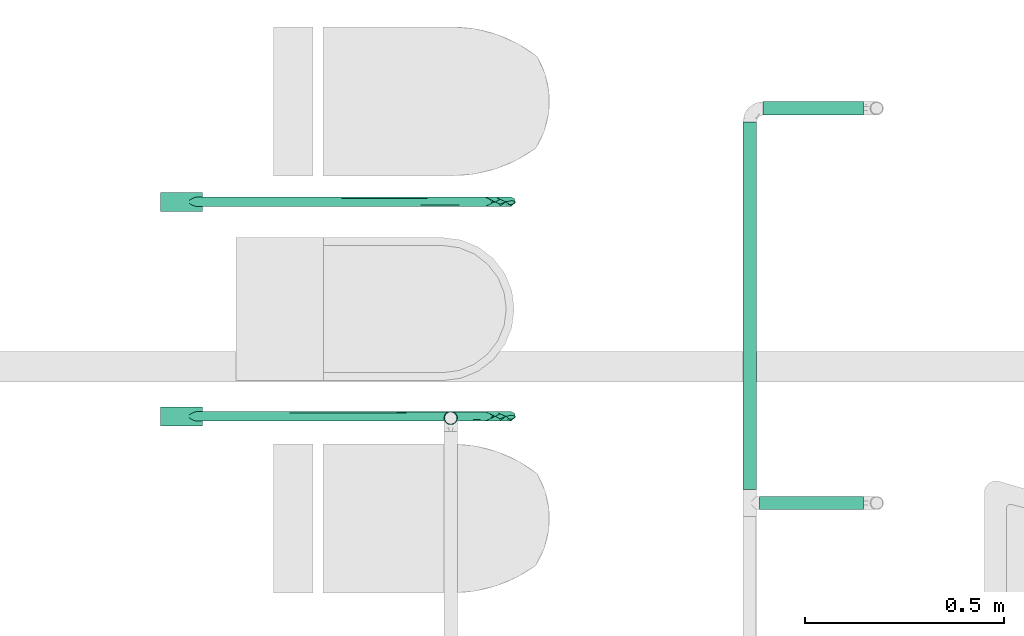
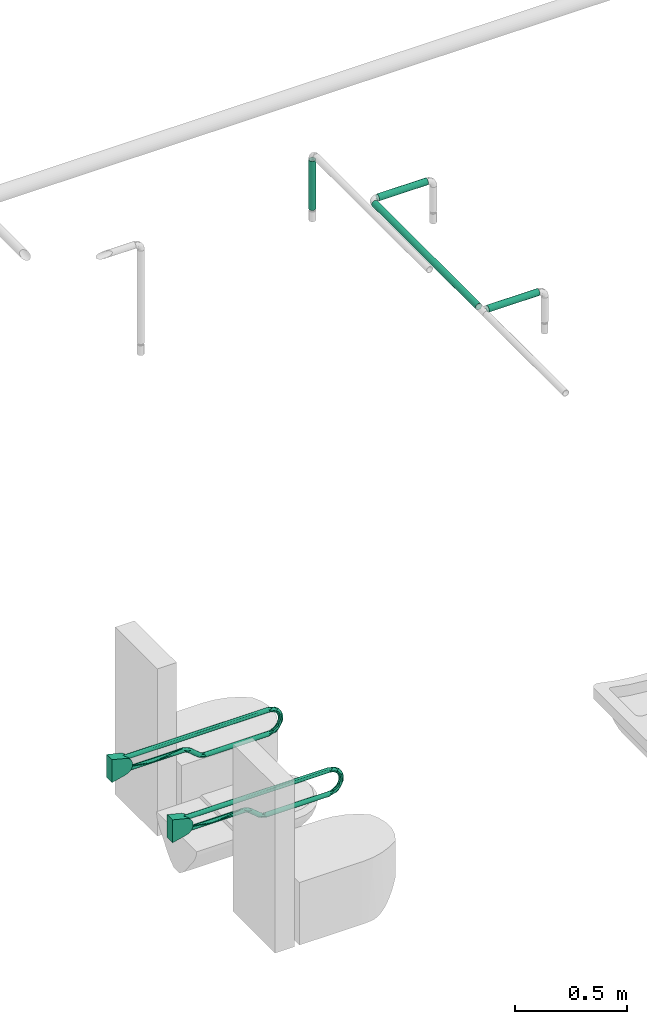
# One storey, part 9 of 95: 4 flow segments, 2 flow terminals.
"""IFC2X3 building model written with IfcOpenShell, lengths in millimetres."""

from ifc_helpers import new_model, entity, si_unit, converted_unit, derived_unit, direction, frame, origin_with_axes, origin_2d_with_axis, place, context, subcontext, project, spatial, hollow_circle, extrude, open_shell, surface_model, source, transform, mapped, type_object, element, save


model = new_model("IFC2X3")

# Units and contexts
model_context = context("Model", 3, precision=0.01, world=frame((0.0, 4.29681676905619e-09, 0.0)), true_north=direction((4.01073788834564e-13, 1.0)))
plan_context = context("Plan", 3, precision=0.01, world=frame((0.0, 4.29681676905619e-09, 0.0)), true_north=direction((4.01073788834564e-13, 1.0)))
body_context = subcontext(model_context, "Body", "Model", "MODEL_VIEW")
ifc_project = project(units=[converted_unit("PLANEANGLEUNIT", "DEGREE", entity("IfcPositiveLengthMeasure", 0.0174532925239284), si_unit("PLANEANGLEUNIT", "RADIAN"), dimensions=[0, 0, 0, 0, 0, 0, 0]), si_unit("AREAUNIT", "SQUARE_METRE"), si_unit("LENGTHUNIT", "METRE", prefix="MILLI"), si_unit("MASSUNIT", "GRAM", prefix="KILO"), si_unit("POWERUNIT", "WATT"), si_unit("PRESSUREUNIT", "PASCAL"), si_unit("FORCEUNIT", "NEWTON", prefix="KILO"), si_unit("ELECTRICVOLTAGEUNIT", "VOLT"), si_unit("ELECTRICCURRENTUNIT", "AMPERE"), si_unit("THERMODYNAMICTEMPERATUREUNIT", "DEGREE_CELSIUS"), si_unit("TIMEUNIT", "SECOND"), si_unit("VOLUMEUNIT", "CUBIC_METRE"), derived_unit("LINEARVELOCITYUNIT", [(si_unit("LENGTHUNIT", "METRE"), 1), (si_unit("TIMEUNIT", "SECOND"), -1)]), derived_unit("VOLUMETRICFLOWRATEUNIT", [(si_unit("VOLUMEUNIT", "CUBIC_METRE"), 1), (si_unit("TIMEUNIT", "SECOND"), -1)]), derived_unit("THERMALTRANSMITTANCEUNIT", [(si_unit("POWERUNIT", "WATT"), 1), (si_unit("THERMODYNAMICTEMPERATUREUNIT", "KELVIN"), -1), (si_unit("AREAUNIT", "SQUARE_METRE"), -1)]), derived_unit("SOUNDPRESSUREUNIT", [(si_unit("PRESSUREUNIT", "PASCAL"), 1)])], contexts=[model_context, plan_context])

# Site, building, storey
site_placement = place(None, frame((0.0, -4.29681676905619e-09, 0.0), z_axis=(0.0, 0.0, 1.0), x_axis=(1.0, 0.0, 0.0)))
site = spatial("IfcSite", under=ifc_project, at=site_placement, CompositionType="ELEMENT")
building_placement = place(site_placement, frame((0.0, 4.29681676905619e-09, 0.0), z_axis=(0.0, 0.0, 1.0), x_axis=(1.0, 0.0, 0.0)))
building = spatial("IfcBuilding", under=site, at=building_placement, Name="mc-building", CompositionType="ELEMENT")
storey_placement = place(building_placement, frame((0.0, 0.0, 210900.0), z_axis=(0.0, 0.0, 1.0), x_axis=(1.0, 0.0, 0.0)))
storey = spatial("IfcBuildingStorey", under=building, at=storey_placement, Name="Nivå F", CompositionType="ELEMENT", Elevation=210900.0)

# Flow segments
pipe_segment_type = type_object("IfcPipeSegmentType", Name="Stålrør normaltykke", PredefinedType="RIGIDSEGMENT")
shared_shape_1 = source(origin_with_axes(), body_context, "Body", "SweptSolid", [
    extrude(hollow_circle(Radius=16.9, WallThickness=2.0, at=origin_2d_with_axis()), frame((0.0, 0.0, 0.0), z_axis=(1.0, 0.0, 0.0), x_axis=(0.0, 1.0, 0.0)), (0.0, 0.0, 1.0), 252.4),
])
flow_segment_1_placement = place(storey_placement, frame((532724.63666, 442511.46652, 3080.14999999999), z_axis=(0.0, 0.0, 1.0), x_axis=(-1.0, 0.0, 0.0)))
element("IfcFlowSegment", 1, at=flow_segment_1_placement, inside=storey, type_object=pipe_segment_type, Name="Stålrør normaltykke", context=body_context, shape_type="MappedRepresentation", body=[
    mapped(shared_shape_1, transform((0.0, 0.0, 0.0), scale=1.0)),
])
shared_shape_2 = source(origin_with_axes(), body_context, "Body", "SweptSolid", [
    extrude(hollow_circle(Radius=16.9, WallThickness=2.0, at=origin_2d_with_axis()), frame((0.0, 0.0, 0.0), z_axis=(1.0, 0.0, 0.0), x_axis=(0.0, 1.0, 0.0)), (0.0, 0.0, 1.0), 261.1),
])
flow_segment_2_placement = place(storey_placement, frame((532463.78666, 441518.15849, 3080.14999999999), z_axis=(0.0, 0.0, 1.0), x_axis=(1.0, 0.0, 0.0)))
element("IfcFlowSegment", 2, at=flow_segment_2_placement, inside=storey, type_object=pipe_segment_type, Name="Stålrør normaltykke", context=body_context, shape_type="MappedRepresentation", body=[
    mapped(shared_shape_2, transform((0.0, 0.0, 0.0), scale=1.0)),
])
shared_shape_3 = source(origin_with_axes(), body_context, "Body", "SweptSolid", [
    extrude(hollow_circle(Radius=16.9, WallThickness=2.0, at=origin_2d_with_axis()), frame((0.0, 0.0, 0.0), z_axis=(1.0, 0.0, 0.0), x_axis=(0.0, 1.0, 0.0)), (0.0, 0.0, 1.0), 925.7),
])
flow_segment_3_placement = place(storey_placement, frame((532438.43666, 442477.66652, 3080.14999999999), z_axis=(0.0, 0.0, 1.0), x_axis=(0.0, -1.0, 0.0)))
element("IfcFlowSegment", 3, at=flow_segment_3_placement, inside=storey, type_object=pipe_segment_type, Name="Stålrør normaltykke", context=body_context, shape_type="MappedRepresentation", body=[
    mapped(shared_shape_3, transform((0.0, 0.0, 0.0), scale=1.0)),
])
shared_shape_4 = source(origin_with_axes(), body_context, "Body", "SweptSolid", [
    extrude(hollow_circle(Radius=16.9, WallThickness=2.0, at=origin_2d_with_axis()), frame((0.0, 0.0, 0.0), z_axis=(1.0, 0.0, 0.0), x_axis=(0.0, 1.0, 0.0)), (0.0, 0.0, 1.0), 266.8),
])
flow_segment_4_placement = place(storey_placement, frame((531686.19805, 441731.98794, 4036.20000000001), z_axis=(0.0, -1.0, 0.0), x_axis=(0.0, 0.0, -1.0)))
element("IfcFlowSegment", 4, at=flow_segment_4_placement, inside=storey, type_object=pipe_segment_type, Name="Stålrør normaltykke", context=body_context, shape_type="MappedRepresentation", body=[
    mapped(shared_shape_4, transform((0.0, 0.0, 0.0), scale=1.0)),
])

# Flow terminals
sanitary_terminal_type = type_object("IfcSanitaryTerminalType", Name="Armstøtte HWC 2", PredefinedType="NOTDEFINED")
shared_shape_5 = source(origin_with_axes(), body_context, "Body", "SurfaceModel", [
    surface_model("IfcShellBasedSurfaceModel", [(-831.79567, -170.0, 709.41462), (-879.79564, -170.0, 709.41462), (-879.79564, -170.0, 584.51836), (-831.79567, -170.0, 584.51836), (-867.28725, -74.35086, 676.5441), (-867.38681, 646.99728, 676.89415), (-866.18797, 646.99728, 673.99999), (-862.43689, -69.7611, 670.00532), (-864.28097, 646.99728, 671.51475), (-861.79565, 646.99728, 669.60767), (-865.55996, -71.67023, 673.0244), (-858.9015, 646.99728, 668.40891), (-858.1591, -68.78703, 668.23501), (-867.79565, -77.57324, 679.99999), (-867.79565, 646.99728, 679.99999), (-855.79566, 646.99728, 668.0), (-853.42516, -68.78778, 668.23646), (-852.68981, 646.99728, 668.40891), (-849.79566, 646.99728, 669.60767), (-847.31042, 646.99728, 671.51475), (-849.14584, -69.76439, 670.01099), (-844.30362, -74.35202, 676.54548), (-845.40334, 646.99728, 673.99999), (-844.20458, 646.99728, 676.89415), (-846.02975, -71.67185, 673.02672), (-843.79566, 646.99728, 679.99999), (-843.79566, -77.57324, 679.99999), (-844.20458, 646.99728, 683.10583), (-844.14135, -80.82162, 682.85963), (-845.40334, 646.99728, 685.99999), (-847.31042, 646.99728, 688.4853), (-849.79566, 646.99728, 690.39231), (-848.09714, -91.40481, 689.20502), (-845.05707, -84.25548, 685.35562), (-850.11868, -94.99724, 690.57217), (-852.68981, 646.99728, 691.59114), (-846.40364, -87.80224, 687.4693), (-852.60014, -98.41599, 691.56673), (-853.38628, -99.1737, 691.7556), (-854.18333, -99.71739, 691.8912), (-855.79566, 646.99728, 691.99998), (-854.98764, -100.04459, 691.97273), (-855.79566, -100.15382, 691.99998), (-861.79565, 646.99728, 690.39231), (-861.47271, -94.99724, 690.57217), (-858.9015, 646.99728, 691.59114), (-858.2051, -99.1737, 691.7556), (-863.49424, -91.40481, 689.20502), (-864.28097, 646.99728, 688.4853), (-867.38681, 646.99728, 683.10583), (-866.18797, 646.99728, 685.99999), (-866.53424, -84.25548, 685.35562), (-867.44996, -80.82162, 682.85963), (-857.40806, -99.71739, 691.8912), (-856.60367, -100.04459, 691.97273), (-858.99117, -98.41599, 691.56673), (-865.18767, -87.80224, 687.4693), (-857.36198, 671.85928, 568.07692), (-849.21241, 672.17496, 566.13837), (-848.63243, 682.12522, 572.19647), (-843.79566, 662.06736, 677.00235), (-848.49051, 664.02749, 667.80132), (-855.72967, 661.23551, 666.05186), (-857.36198, 671.85928, 661.92304), (-867.79565, 662.06736, 677.00235), (-846.60566, 694.62679, 583.17501), (-843.79566, 707.0495, 590.12557), (-849.00951, 700.44664, 601.60143), (-845.61822, 692.32845, 652.20234), (-843.79566, 692.95923, 660.96191), (-847.81562, 680.08102, 660.22961), (-867.79565, 671.87171, 675.05218), (-863.10081, 661.95182, 668.42628), (-860.54457, 686.06452, 652.24987), (-849.7836, 686.21015, 653.01465), (-865.16739, 675.40921, 565.00378), (-863.10081, 661.95182, 561.57372), (-843.79566, 700.00437, 650.41815), (-845.76763, 698.90567, 641.77979), (-855.79566, 698.97892, 625.33981), (-850.9966, 697.36361, 634.47784), (-859.9329, 694.97706, 639.19659), (-844.20458, 646.99728, 553.10585), (-843.79566, 646.99728, 550.0), (-843.79566, 662.06736, 552.99764), (-859.01661, 695.21134, 591.95053), (-860.5926, 688.3481, 580.2701), (-853.85798, 690.7747, 584.84613), (-864.84023, 702.55668, 628.23295), (-866.18797, 646.99728, 556.0), (-867.79565, 662.06736, 552.99764), (-843.79566, 671.87171, 675.05218), (-846.44826, 703.33934, 626.35566), (-847.31042, 646.99728, 558.48528), (-845.40334, 646.99728, 556.0), (-845.71255, 665.13673, 559.38987), (-865.16739, 675.40921, 664.99626), (-859.6657, 700.63391, 615.69839), (-852.2232, 700.52555, 613.69546), (-843.79566, 692.95923, 569.03805), (-843.79566, 700.00437, 579.58181), (-867.79565, 709.52341, 602.56278), (-865.97309, 703.11457, 597.97702), (-865.51323, 704.86969, 611.82501), (-843.79566, 709.52341, 602.56278), (-846.06987, 704.86046, 611.46726), (-864.28097, 646.99728, 558.48528), (-861.79565, 646.99728, 560.39232), (-867.79565, 700.00437, 579.58181), (-865.61926, 687.91797, 573.74394), (-865.79563, 696.964, 584.83382), (-861.05907, 700.17143, 604.42299), (-855.07637, 698.32889, 601.72014), (-867.79565, 646.99728, 550.0), (-867.38681, 646.99728, 553.10585), (-861.09155, 680.44749, 572.31307), (-854.87849, 683.37667, 576.40904), (-858.9015, 646.99728, 561.59112), (-851.20349, 661.52961, 563.08205), (-855.79566, 646.99728, 562.0), (-867.79565, 671.87171, 554.94781), (-843.79566, 671.87171, 554.94781), (-852.18483, 696.0283, 593.45418), (-843.79566, 682.41547, 561.99295), (-867.79565, 692.95923, 569.03805), (-852.68981, 646.99728, 561.59112), (-849.79566, 646.99728, 560.39232), (-850.53224, 692.07614, 645.12072), (-865.72935, 685.55656, 658.68436), (-867.79565, 682.41547, 668.00705), (-867.79565, 700.00437, 650.41815), (-865.86008, 698.55874, 642.56012), (-865.01682, 691.9768, 650.53188), (-867.79565, 682.41547, 561.99295), (-867.79565, 707.0495, 639.87439), (-867.79565, 709.52341, 627.43721), (-867.79565, 711.99731, 615.00003), (-867.79565, 707.0495, 590.12557), (-843.79566, 711.99731, 615.00003), (-843.79566, 709.52341, 627.43721), (-843.79566, 707.0495, 639.87439), (-843.79566, 682.41547, 668.00705), (-867.79565, 692.95923, 660.96191), (-855.79566, 672.23041, 687.74814), (-863.965, 697.10752, 560.83437), (-858.83079, 688.63624, 550.694), (-855.79566, 714.67244, 578.27026), (-849.73251, 684.3256, 680.46035), (-849.48994, 706.87938, 660.50416), (-858.8127, 714.25909, 651.68297), (-855.79566, 699.03386, 671.75558), (-848.36326, 714.58865, 646.14355), (-855.79566, 722.94199, 627.70435), (-861.82465, 684.42123, 680.42874), (-862.10138, 718.58128, 591.92993), (-855.79566, 676.14863, 543.73149), (-852.77862, 722.55321, 602.30793), (-852.77862, 698.58134, 558.35306), (-848.74972, 684.20526, 550.21038), (-863.22812, 721.11289, 608.26247), (-844.20458, 646.99728, 546.89416), (-855.42882, 661.84478, 539.45076), (-845.40334, 646.99728, 544.0), (-847.31042, 646.99728, 541.51473), (-849.79566, 646.99728, 539.60769), (-852.68981, 646.99728, 538.40889), (-855.79566, 646.99728, 538.0), (-867.38681, 646.99728, 546.89416), (-858.9015, 646.99728, 538.40889), (-861.79565, 646.99728, 539.60769), (-864.28097, 646.99728, 541.51473), (-866.18797, 646.99728, 544.0), (-867.38681, 321.7587, 553.10585), (-866.18797, 321.7587, 556.0), (-867.79565, 321.7587, 550.0), (-861.79565, 321.7587, 560.39232), (-858.9015, 321.7587, 561.59112), (-864.28097, 321.7587, 558.48528), (-855.79566, 321.7587, 562.0), (-849.79566, 321.7587, 560.39232), (-852.68981, 321.7587, 561.59112), (-847.31042, 321.7587, 558.48528), (-845.40334, 321.7587, 556.0), (-844.20458, 321.7587, 553.10585), (-843.79566, 321.7587, 550.0), (-844.20458, 321.7587, 546.89416), (-845.40334, 321.7587, 544.0), (-847.31042, 321.7587, 541.51473), (-849.79566, 321.7587, 539.60769), (-852.68981, 321.7587, 538.40889), (-855.79566, 321.7587, 538.0), (-858.9015, 321.7587, 538.40889), (-861.79565, 321.7587, 539.60769), (-864.28097, 321.7587, 541.51473), (-866.18797, 321.7587, 544.0), (-867.38681, 321.7587, 546.89416), (-864.81778, 311.08748, 559.28745), (-857.36198, 308.72683, 564.19521), (-846.27545, 312.96549, 558.22047), (-858.9015, 297.06995, 570.57709), (-855.79566, 297.33278, 570.8903), (-847.88349, 305.45981, 562.40299), (-843.79566, 304.65771, 553.01537), (-867.79565, 304.65771, 553.01537), (-852.68981, 297.06995, 570.57709), (-865.31593, 302.0865, 562.10733), (-864.28097, 295.07356, 568.19788), (-861.79565, 296.29937, 569.65876), (-867.38681, 291.61572, 564.07698), (-866.18797, 293.47605, 566.29403), (-867.79565, 289.61933, 561.69776), (-844.20458, 291.61572, 564.07698), (-843.79566, 289.61933, 561.69776), (-845.40334, 293.47605, 566.29403), (-847.31042, 295.07356, 568.19788), (-849.79566, 296.29937, 569.65876), (-858.9015, 282.16871, 552.81847), (-855.79566, 300.55346, 541.73906), (-855.79566, 281.90589, 552.50523), (-844.20458, 287.62294, 559.31859), (-845.40334, 285.76261, 557.1015), (-847.31042, 284.1651, 555.19769), (-849.79566, 282.93929, 553.7368), (-852.68981, 282.16871, 552.81847), (-866.18797, 285.76261, 557.1015), (-867.38681, 287.62294, 559.31859), (-861.79565, 282.93929, 553.7368), (-864.28097, 284.1651, 555.19769), (-867.38681, 243.06725, 604.81399), (-867.79565, 241.07088, 602.43478), (-866.18797, 244.9276, 607.03104), (-864.28097, 246.5251, 608.93489), (-861.79565, 247.75092, 610.39574), (-858.9015, 248.52149, 611.31407), (-855.79566, 248.78432, 611.62727), (-849.79566, 247.75092, 610.39574), (-852.68981, 248.52149, 611.31407), (-847.31042, 246.5251, 608.93489), (-845.40334, 244.9276, 607.03104), (-844.20458, 243.06725, 604.81399), (-843.79566, 241.07088, 602.43478), (-844.20458, 239.07449, 600.05556), (-845.40334, 237.21414, 597.83851), (-847.31042, 235.61663, 595.93466), (-849.79566, 234.39082, 594.47382), (-852.68981, 233.62024, 593.55549), (-855.79566, 233.35741, 593.24224), (-858.9015, 233.62024, 593.55549), (-861.79565, 234.39082, 594.47382), (-864.28097, 235.61663, 595.93466), (-867.38681, 239.07449, 600.05556), (-866.18797, 237.21414, 597.83851), (-855.79566, 230.13673, 622.39348), (-867.79565, 226.0325, 611.1172), (-843.79566, 226.0325, 611.1172), (-866.18797, 208.93149, 620.13257), (-867.79565, 208.93149, 614.13257), (-867.38681, 208.93149, 617.23841), (-864.28097, 208.93149, 622.61781), (-861.79565, 208.93149, 624.52489), (-858.9015, 208.93149, 625.72365), (-855.79566, 208.93149, 626.13257), (-845.40334, 208.93149, 620.13257), (-844.20458, 208.93149, 617.23841), (-843.79566, 208.93149, 614.13257), (-849.79566, 208.93149, 624.52489), (-847.31042, 208.93149, 622.61781), (-852.68981, 208.93149, 625.72365), (-846.7736, 226.92636, 602.17952), (-854.22933, 221.96336, 599.93733), (-865.31593, 229.05086, 601.78972), (-846.27545, 218.21866, 605.8051), (-847.31042, 208.93149, 605.64726), (-849.79566, 208.93149, 603.74026), (-863.70782, 220.6127, 603.41026), (-852.68981, 208.93149, 602.54146), (-858.9015, 208.93149, 602.54146), (-855.79566, 208.93149, 602.13254), (-844.20458, 208.93149, 611.02673), (-845.40334, 208.93149, 608.13254), (-866.18797, 208.93149, 608.13254), (-867.38681, 208.93149, 611.02673), (-861.79565, 208.93149, 603.74026), (-864.28097, 208.93149, 605.64726), (-867.79565, -77.36825, 614.13257), (-867.28413, -74.17547, 617.59879), (-867.79565, 43.58794, 614.13257), (-844.30675, -74.17658, 617.5974), (-843.79566, -77.36825, 614.13257), (-843.79566, 43.58794, 614.13257), (-858.15329, -68.68288, 625.89871), (-862.42461, -69.6415, 624.13538), (-865.55029, -71.52452, 621.12161), (-853.43105, -68.68361, 625.89726), (-849.15827, -69.6447, 624.12978), (-846.03927, -71.52615, 621.11921), (-846.57696, -87.82704, 606.45037), (-848.39335, -91.49892, 604.68769), (-844.16439, -80.68809, 611.18057), (-845.14027, -84.2011, 608.61321), (-853.4389, -98.41599, 602.36628), (-854.21879, -98.936, 602.2366), (-850.59634, -95.12792, 603.31743), (-855.00551, -99.24891, 602.15859), (-855.79566, -99.35337, 602.13254), (-856.58587, -99.24891, 602.15859), (-857.37259, -98.936, 602.2366), (-858.15249, -98.41599, 602.36628), (-860.99497, -95.12792, 603.31743), (-863.19797, -91.49892, 604.68769), (-865.01435, -87.82704, 606.45037), (-866.45104, -84.2011, 608.61321), (-867.42692, -80.68809, 611.18057), (-831.79567, -66.54557, 630.69835), (-831.79567, -63.90427, 641.43708), (-831.79567, -63.90427, 652.49586), (-831.79567, -66.54557, 663.23466), (-831.79567, -71.67529, 620.90127), (-831.79567, -78.9965, 612.6129), (-831.79567, -88.08543, 606.31299), (-831.79567, -98.41599, 691.56673), (-831.79567, -78.9965, 681.32011), (-831.79567, -88.08543, 687.61995), (-831.79567, -98.41599, 602.36628), (-831.79567, -71.67529, 673.03174), (-879.79564, -98.41599, 602.36628), (-879.79564, -98.41599, 691.56673), (-879.79564, -88.08543, 606.31299), (-879.79564, -88.08543, 687.61995), (-879.79564, -66.54557, 663.23466), (-879.79564, -78.9965, 681.32011), (-879.79564, -71.67529, 673.03174), (-879.79564, -63.90427, 652.49586), (-879.79564, -63.90427, 641.43708), (-879.79564, -66.54557, 630.69835), (-879.79564, -78.9965, 612.6129), (-879.79564, -71.67529, 620.90127), (-879.79564, -83.54097, 609.46294), (-879.79564, -75.33589, 616.75705), (-831.79567, -75.33589, 677.17589), (-831.79567, -83.54097, 609.46294), (-879.79564, -83.54097, 684.47007), (-831.79567, -75.33589, 616.75705), (-879.79564, -75.33589, 677.17589), (-831.79567, -83.54097, 684.47007)], [open_shell([[[0, 1, 2]], [[2, 3, 0]], [[4, 5, 6]], [[7, 8, 9]], [[6, 8, 10]], [[9, 11, 12]], [[13, 14, 4]], [[14, 5, 4]], [[4, 6, 10]], [[10, 8, 7]], [[9, 12, 7]], [[11, 15, 12]], [[16, 17, 18]], [[19, 20, 18]], [[21, 22, 23]], [[19, 22, 24]], [[21, 23, 25]], [[17, 16, 15]], [[18, 20, 16]], [[15, 16, 12]], [[20, 19, 24]], [[24, 22, 21]], [[25, 26, 21]], [[25, 27, 26]], [[28, 26, 27]], [[27, 29, 28]], [[30, 31, 32]], [[33, 29, 30]], [[28, 29, 33]], [[34, 31, 35]], [[33, 30, 36]], [[34, 32, 31]], [[36, 30, 32]], [[37, 35, 38]], [[39, 40, 41]], [[40, 39, 38]], [[34, 35, 37]], [[41, 40, 42]], [[35, 40, 38]], [[43, 44, 45]], [[45, 46, 40]], [[47, 43, 48]], [[49, 14, 13]], [[48, 50, 51]], [[49, 52, 50]], [[13, 52, 49]], [[53, 40, 46]], [[54, 40, 53]], [[45, 55, 46]], [[56, 48, 51]], [[44, 55, 45]], [[43, 47, 44]], [[47, 48, 56]], [[50, 52, 51]], [[40, 54, 42]], [[57, 58, 59]], [[60, 22, 61]], [[61, 62, 63]], [[5, 64, 6]], [[65, 66, 67]], [[68, 69, 70]], [[71, 72, 64]], [[63, 73, 74]], [[25, 23, 60]], [[75, 76, 57]], [[9, 72, 11]], [[62, 11, 72]], [[19, 18, 61]], [[77, 68, 78]], [[79, 80, 81]], [[8, 72, 9]], [[82, 83, 84]], [[85, 86, 87]], [[79, 81, 88]], [[17, 15, 62]], [[68, 77, 69]], [[19, 61, 22]], [[89, 76, 90]], [[64, 72, 6]], [[17, 62, 18]], [[6, 72, 8]], [[70, 91, 61]], [[78, 80, 92]], [[72, 63, 62]], [[60, 23, 22]], [[93, 94, 95]], [[63, 96, 73]], [[5, 14, 64]], [[79, 97, 98]], [[98, 92, 79]], [[65, 99, 100]], [[101, 102, 103]], [[67, 104, 105]], [[76, 106, 107]], [[108, 109, 110]], [[111, 112, 97]], [[90, 113, 114]], [[115, 116, 86]], [[76, 117, 118]], [[118, 117, 119]], [[118, 58, 57]], [[65, 59, 99]], [[90, 114, 89]], [[91, 60, 61]], [[76, 107, 117]], [[106, 76, 89]], [[95, 118, 93]], [[95, 58, 118]], [[76, 120, 90]], [[58, 95, 121]], [[122, 85, 87]], [[96, 63, 72]], [[95, 94, 84]], [[85, 111, 102]], [[121, 123, 58]], [[121, 95, 84]], [[124, 109, 108]], [[59, 58, 123]], [[75, 115, 109]], [[70, 61, 63]], [[118, 125, 126]], [[59, 123, 99]], [[94, 82, 84]], [[118, 57, 76]], [[120, 76, 75]], [[73, 81, 127]], [[118, 126, 93]], [[119, 125, 118]], [[96, 72, 71]], [[127, 68, 74]], [[98, 97, 112]], [[96, 128, 73]], [[96, 71, 129]], [[130, 131, 132]], [[115, 75, 57]], [[109, 133, 75]], [[130, 134, 131]], [[131, 88, 81]], [[103, 135, 136]], [[97, 103, 111]], [[73, 128, 132]], [[88, 131, 134]], [[132, 81, 73]], [[116, 57, 59]], [[109, 115, 86]], [[109, 86, 110]], [[88, 134, 135]], [[85, 110, 86]], [[110, 102, 137]], [[86, 116, 87]], [[85, 122, 112]], [[57, 116, 115]], [[87, 59, 65]], [[59, 87, 116]], [[122, 65, 67]], [[65, 122, 87]], [[112, 122, 67]], [[112, 67, 98]], [[85, 112, 111]], [[67, 105, 98]], [[92, 138, 139]], [[92, 98, 105]], [[77, 78, 140]], [[79, 88, 97]], [[92, 105, 138]], [[104, 67, 66]], [[104, 138, 105]], [[135, 103, 88]], [[88, 103, 97]], [[102, 110, 85]], [[102, 101, 137]], [[103, 136, 101]], [[103, 102, 111]], [[62, 61, 18]], [[11, 62, 15]], [[127, 78, 68]], [[141, 91, 70]], [[74, 68, 70]], [[80, 78, 127]], [[92, 140, 78]], [[81, 80, 127]], [[92, 80, 79]], [[63, 74, 70]], [[73, 127, 74]], [[70, 69, 141]], [[129, 128, 96]], [[100, 66, 65]], [[128, 129, 142]], [[142, 130, 132]], [[132, 128, 142]], [[81, 132, 131]], [[133, 109, 124]], [[133, 120, 75]], [[110, 137, 108]], [[139, 140, 92]], [[31, 30, 143]], [[120, 144, 145]], [[40, 35, 143]], [[143, 35, 31]], [[30, 29, 143]], [[146, 144, 124]], [[147, 25, 91]], [[148, 149, 150]], [[151, 152, 149]], [[147, 150, 153]], [[153, 150, 71]], [[29, 27, 143]], [[108, 137, 154]], [[155, 120, 145]], [[144, 120, 124]], [[151, 149, 148]], [[154, 156, 146]], [[143, 45, 40]], [[143, 43, 45]], [[50, 48, 143]], [[14, 153, 71]], [[157, 158, 145]], [[43, 143, 48]], [[121, 158, 157]], [[146, 108, 154]], [[148, 141, 69]], [[14, 49, 143]], [[143, 49, 50]], [[99, 121, 157]], [[142, 150, 149]], [[142, 71, 150]], [[134, 149, 152]], [[152, 136, 134]], [[147, 153, 143]], [[156, 138, 66]], [[66, 146, 156]], [[99, 157, 146]], [[138, 152, 140]], [[143, 153, 14]], [[155, 158, 83]], [[99, 146, 66]], [[159, 152, 156]], [[83, 160, 155]], [[160, 161, 155]], [[161, 162, 163]], [[146, 157, 144]], [[161, 164, 165]], [[137, 159, 154]], [[159, 137, 136]], [[163, 164, 161]], [[152, 159, 136]], [[160, 162, 161]], [[83, 158, 121]], [[161, 165, 166]], [[144, 157, 145]], [[159, 156, 154]], [[155, 167, 113]], [[155, 113, 120]], [[134, 142, 149]], [[168, 161, 166]], [[150, 141, 148]], [[143, 27, 25]], [[141, 147, 91]], [[161, 169, 170]], [[161, 171, 167]], [[171, 161, 170]], [[69, 151, 148]], [[151, 69, 140]], [[152, 151, 140]], [[161, 167, 155]], [[168, 169, 161]], [[147, 141, 150]], [[146, 124, 108]], [[156, 152, 138]], [[145, 158, 155]], [[25, 147, 143]], [[172, 173, 89]], [[174, 172, 114]], [[175, 176, 117]], [[177, 175, 107]], [[173, 177, 106]], [[174, 114, 113]], [[172, 89, 114]], [[173, 106, 89]], [[177, 107, 106]], [[117, 107, 175]], [[176, 119, 117]], [[176, 178, 119]], [[179, 126, 180]], [[181, 93, 179]], [[82, 182, 183]], [[182, 94, 181]], [[183, 184, 83]], [[180, 125, 178]], [[180, 126, 125]], [[178, 125, 119]], [[179, 93, 126]], [[181, 94, 93]], [[82, 94, 182]], [[183, 83, 82]], [[185, 160, 184]], [[186, 162, 185]], [[164, 187, 188]], [[186, 187, 163]], [[165, 188, 189]], [[184, 160, 83]], [[185, 162, 160]], [[186, 163, 162]], [[187, 164, 163]], [[165, 164, 188]], [[189, 166, 165]], [[189, 190, 166]], [[169, 191, 192]], [[193, 170, 192]], [[167, 194, 195]], [[193, 194, 171]], [[113, 195, 174]], [[191, 168, 190]], [[191, 169, 168]], [[190, 168, 166]], [[192, 170, 169]], [[193, 171, 170]], [[167, 171, 194]], [[195, 113, 167]], [[196, 197, 176]], [[172, 196, 173]], [[198, 182, 181]], [[199, 200, 197]], [[201, 202, 198]], [[197, 178, 176]], [[173, 196, 177]], [[197, 180, 178]], [[196, 175, 177]], [[198, 202, 184]], [[196, 172, 203]], [[201, 197, 204]], [[198, 197, 201]], [[180, 198, 179]], [[203, 205, 196]], [[205, 206, 207]], [[182, 198, 183]], [[184, 183, 198]], [[198, 181, 179]], [[180, 197, 198]], [[172, 174, 203]], [[208, 205, 203]], [[197, 205, 199]], [[207, 199, 205]], [[204, 197, 200]], [[205, 208, 209]], [[205, 209, 206]], [[208, 203, 210]], [[196, 176, 175]], [[211, 212, 202]], [[211, 202, 201]], [[213, 201, 214]], [[211, 201, 213]], [[214, 201, 215]], [[204, 215, 201]], [[196, 205, 197]], [[216, 217, 218]], [[188, 217, 189]], [[217, 186, 202]], [[217, 187, 186]], [[217, 188, 187]], [[185, 202, 186]], [[217, 193, 192]], [[192, 191, 217]], [[195, 194, 203]], [[194, 217, 203]], [[203, 174, 195]], [[193, 217, 194]], [[190, 217, 191]], [[185, 184, 202]], [[202, 212, 219]], [[217, 190, 189]], [[202, 219, 220]], [[217, 221, 222]], [[217, 222, 223]], [[217, 220, 221]], [[223, 218, 217]], [[224, 225, 203]], [[210, 203, 225]], [[217, 226, 227]], [[227, 224, 217]], [[203, 217, 224]], [[217, 216, 226]], [[217, 202, 220]], [[228, 210, 229]], [[230, 208, 228]], [[206, 231, 232]], [[230, 231, 209]], [[207, 232, 233]], [[230, 209, 208]], [[208, 210, 228]], [[199, 234, 200]], [[199, 207, 233]], [[206, 232, 207]], [[206, 209, 231]], [[234, 199, 233]], [[235, 204, 236]], [[237, 215, 235]], [[213, 238, 239]], [[237, 238, 214]], [[211, 239, 240]], [[235, 215, 204]], [[204, 200, 236]], [[211, 213, 239]], [[214, 238, 213]], [[214, 215, 237]], [[212, 211, 240]], [[236, 200, 234]], [[241, 212, 240]], [[242, 219, 241]], [[221, 243, 244]], [[242, 243, 220]], [[222, 244, 245]], [[242, 220, 219]], [[219, 212, 241]], [[223, 246, 218]], [[223, 222, 245]], [[221, 244, 222]], [[221, 220, 243]], [[246, 223, 245]], [[216, 247, 248]], [[249, 226, 248]], [[250, 229, 225]], [[227, 249, 251]], [[224, 251, 250]], [[248, 226, 216]], [[216, 218, 247]], [[225, 224, 250]], [[227, 251, 224]], [[227, 226, 249]], [[210, 225, 229]], [[247, 218, 246]], [[252, 234, 233]], [[232, 252, 233]], [[252, 230, 253]], [[252, 231, 230]], [[252, 232, 231]], [[228, 253, 230]], [[252, 237, 235]], [[235, 236, 252]], [[239, 238, 254]], [[252, 253, 255]], [[254, 240, 239]], [[237, 252, 238]], [[234, 252, 236]], [[228, 229, 253]], [[253, 256, 257]], [[238, 252, 254]], [[253, 257, 255]], [[252, 258, 259]], [[252, 259, 260]], [[252, 255, 258]], [[260, 261, 252]], [[262, 263, 254]], [[264, 254, 263]], [[252, 265, 266]], [[266, 262, 252]], [[254, 252, 262]], [[252, 267, 265]], [[267, 252, 261]], [[268, 269, 245]], [[241, 268, 242]], [[269, 246, 245]], [[269, 247, 246]], [[268, 244, 243]], [[268, 241, 254]], [[270, 248, 247]], [[271, 272, 273]], [[274, 253, 270]], [[270, 249, 248]], [[270, 229, 250]], [[250, 251, 270]], [[274, 270, 269]], [[242, 268, 243]], [[247, 269, 270]], [[241, 240, 254]], [[269, 271, 275]], [[273, 275, 271]], [[254, 271, 268]], [[276, 269, 277]], [[271, 278, 279]], [[271, 279, 272]], [[278, 254, 264]], [[268, 245, 244]], [[274, 280, 281]], [[275, 277, 269]], [[253, 274, 281]], [[270, 253, 229]], [[282, 274, 276]], [[274, 269, 276]], [[270, 251, 249]], [[278, 271, 254]], [[274, 282, 283]], [[283, 280, 274]], [[256, 253, 281]], [[268, 271, 269]], [[284, 285, 286]], [[287, 288, 289]], [[260, 286, 290]], [[286, 291, 290]], [[292, 291, 286]], [[257, 256, 286]], [[255, 257, 286]], [[255, 286, 258]], [[259, 258, 286]], [[260, 259, 286]], [[290, 261, 260]], [[267, 261, 293]], [[293, 261, 290]], [[289, 293, 294]], [[286, 285, 292]], [[295, 287, 289]], [[294, 295, 289]], [[263, 289, 264]], [[289, 267, 293]], [[267, 289, 265]], [[289, 266, 265]], [[262, 266, 289]], [[262, 289, 263]], [[273, 296, 297]], [[279, 298, 299]], [[299, 296, 272]], [[300, 301, 277]], [[275, 302, 300]], [[302, 275, 297]], [[301, 303, 277]], [[298, 278, 288]], [[298, 279, 278]], [[278, 264, 288]], [[279, 299, 272]], [[272, 296, 273]], [[275, 273, 297]], [[300, 277, 275]], [[303, 304, 277]], [[305, 306, 277]], [[306, 307, 277]], [[276, 277, 307]], [[276, 308, 309]], [[282, 309, 310]], [[307, 308, 276]], [[283, 310, 311]], [[282, 310, 283]], [[280, 283, 311]], [[282, 276, 309]], [[312, 284, 281]], [[256, 281, 284]], [[312, 281, 280]], [[280, 311, 312]], [[305, 277, 304]], [[313, 314, 315]], [[313, 315, 316]], [[317, 313, 318]], [[319, 318, 313]], [[313, 316, 319]], [[316, 320, 319]], [[321, 322, 320]], [[323, 320, 0]], [[316, 324, 321]], [[321, 320, 316]], [[319, 320, 323]], [[323, 0, 3]], [[325, 1, 326]], [[327, 325, 326]], [[1, 325, 2]], [[328, 327, 326]], [[329, 330, 331]], [[328, 330, 327]], [[329, 332, 333]], [[329, 333, 334]], [[335, 327, 334]], [[334, 336, 335]], [[327, 329, 334]], [[329, 327, 330]], [[320, 37, 38]], [[320, 38, 39]], [[320, 41, 0]], [[41, 320, 39]], [[0, 41, 42]], [[46, 55, 326]], [[46, 326, 53]], [[42, 54, 1]], [[326, 54, 53]], [[54, 326, 1]], [[42, 1, 0]], [[3, 303, 323]], [[303, 3, 304]], [[323, 301, 300]], [[301, 323, 303]], [[304, 2, 305]], [[2, 304, 3]], [[305, 2, 325]], [[306, 325, 307]], [[325, 306, 305]], [[309, 325, 327]], [[312, 311, 337]], [[337, 335, 312]], [[310, 327, 311]], [[308, 307, 325]], [[310, 309, 327]], [[308, 325, 309]], [[285, 338, 336]], [[291, 336, 334]], [[313, 290, 334]], [[284, 335, 338]], [[284, 338, 285]], [[291, 292, 336]], [[290, 291, 334]], [[285, 336, 292]], [[334, 333, 313]], [[335, 284, 312]], [[26, 339, 21]], [[300, 302, 323]], [[297, 296, 319]], [[302, 297, 323]], [[323, 297, 319]], [[319, 299, 340]], [[296, 299, 319]], [[340, 298, 318]], [[287, 295, 317]], [[294, 293, 313]], [[52, 341, 51]], [[295, 294, 317]], [[287, 342, 288]], [[288, 318, 298]], [[318, 288, 342]], [[294, 313, 317]], [[290, 313, 293]], [[333, 314, 313]], [[298, 340, 299]], [[333, 332, 314]], [[329, 315, 332]], [[329, 331, 7]], [[13, 343, 330]], [[13, 4, 343]], [[33, 322, 344]], [[7, 12, 329]], [[311, 327, 337]], [[4, 10, 331]], [[7, 331, 10]], [[316, 329, 12]], [[330, 52, 13]], [[52, 330, 341]], [[51, 341, 328]], [[47, 328, 326]], [[56, 51, 328]], [[44, 47, 326]], [[55, 44, 326]], [[56, 328, 47]], [[16, 20, 316]], [[287, 317, 342]], [[24, 21, 324]], [[4, 331, 343]], [[20, 24, 324]], [[329, 316, 315]], [[339, 26, 321]], [[324, 316, 20]], [[21, 339, 324]], [[316, 12, 16]], [[36, 32, 322]], [[34, 37, 320]], [[32, 34, 320]], [[28, 33, 344]], [[28, 321, 26]], [[36, 322, 33]], [[322, 32, 320]], [[344, 321, 28]], [[332, 315, 314]]])]),
])
for number, where, z_axis, x_axis, name in (
    (5, (531125.9875, 440880.45433, 0.0), (0.0, 0.0, 1.0), (0.0, -1.0, 0.0), "Armstøtte HWC 2"),
    (6, (531125.9875, 441420.45433, 0.0), (0.0, 0.0, 1.0), (0.0, -1.0, 0.0), "Armstøtte HWC 2"),
):
    element("IfcFlowTerminal", number, at=place(storey_placement, frame(where, z_axis=z_axis, x_axis=x_axis)), inside=storey, type_object=sanitary_terminal_type, Name=name, context=body_context, shape_type="MappedRepresentation", body=[
        mapped(shared_shape_5, transform((0.0, 0.0, 0.0), scale=1.0)),
    ])

save(model, "model.ifc")
